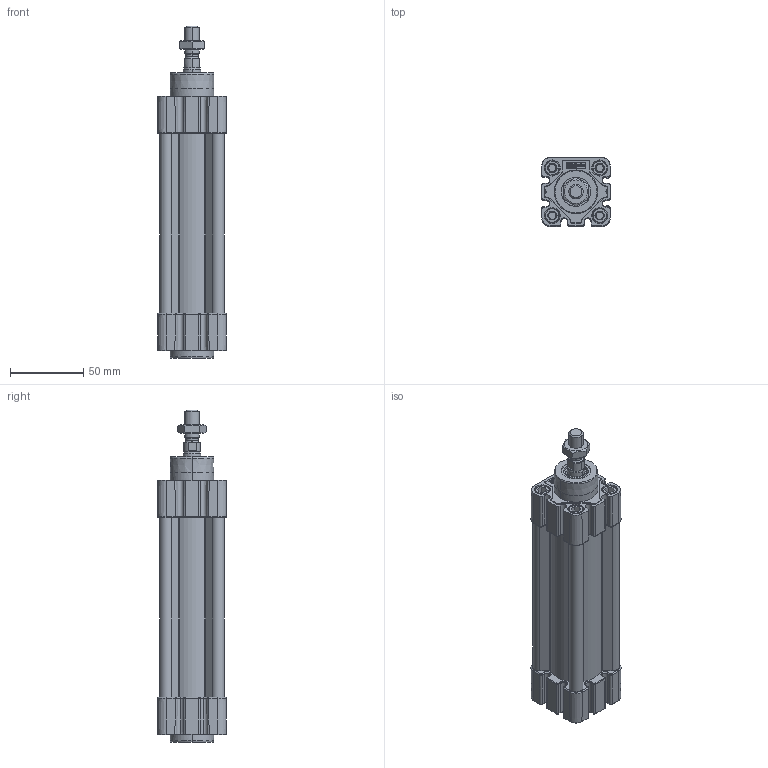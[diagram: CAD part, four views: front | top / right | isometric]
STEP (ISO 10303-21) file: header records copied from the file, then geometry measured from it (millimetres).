
FILE_DESCRIPTION (( 'STEP AP214' ), '1' );
FILE_NAME ('E11M20320080.STEP', '2021-10-25T14:01:23', ( '' ), ( '' ), 'SwSTEP 2.0', 'SolidWorks 2016', '' );
FILE_SCHEMA (( 'AUTOMOTIVE_DESIGN' ));
Length unit declared in the file: millimetre
Products named in the file (7): 21.750.0; E11M20320080; 21.A01.0000_21.A01.0080; 000.530.7_000.530.0080; TA Ø32 ISO 15552 WEB; Pistone Ø32 ISO 15552; TP Ø32 ISO 15552 WEB
Assembly tree (6 placements, depth 2):
  E11M20320080
    TP Ø32 ISO 15552 WEB
    TA Ø32 ISO 15552 WEB
    Pistone Ø32 ISO 15552
    000.530.7_000.530.0080
    21.A01.0000_21.A01.0080
    21.750.0
Bounding box: 47.07 x 47.07 x 227 mm (x, y, z)
Volume: 215264.9 mm3; surface area: 121141.4 mm2
Topology: 18 solids, 18 shells, 1665 faces, 4201 edges, 2657 vertices
Faces by surface type: plane 799, cylinder 516, cone 178, torus 98, bspline 74
Entity records: 66891 total; most frequent: CARTESIAN_POINT 10244, DIRECTION 8723, ORIENTED_EDGE 8402, EDGE_CURVE 4201, AXIS2_PLACEMENT_3D 3124, VERTEX_POINT 2657, LINE 2475, VECTOR 2475
